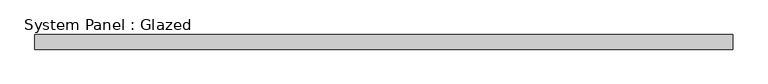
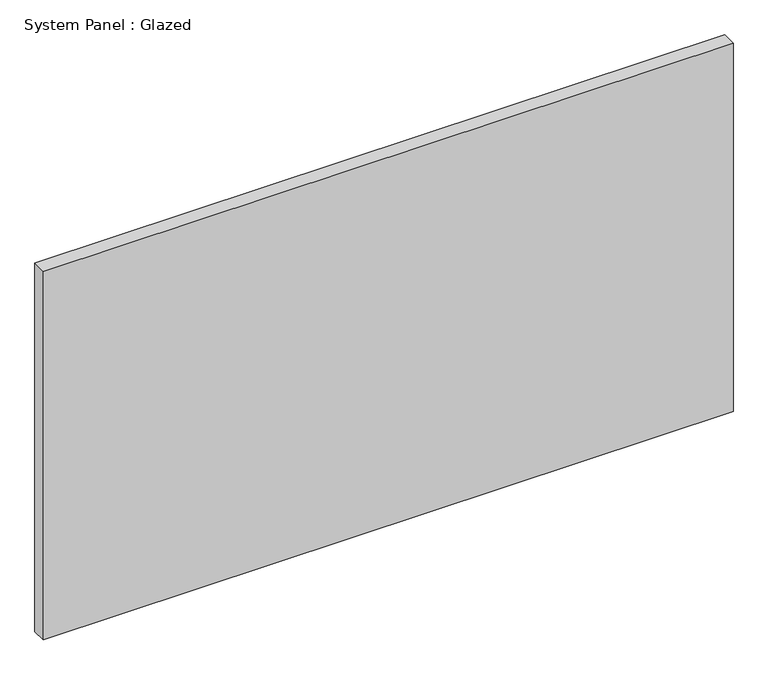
"""IFC4 building model written with IfcOpenShell, lengths in millimetres: plate geometry, System Panel : Glazed."""

from ifc_helpers import new_model, si_unit, origin, origin_with_axes, place, context, project, spatial, polyline, outline, extrude, source, transform, mapped, element, save


def system_panel_glazed_89292151(model_context):
    return source(origin(), model_context, "Body", "SweptSolid", [
        extrude(outline(polyline([(597.3125, -49.5), (-597.3125, -49.5), (-597.3125, -24.5), (597.3125, -24.5), (597.3125, -49.5)])), origin_with_axes(), (0.0, 0.0, 1.0), 675.0),
    ])


if __name__ == "__main__":
    model = new_model("IFC4")
    model_context = context("Model", 3, world=origin())
    ifc_project = project(units=[si_unit("LENGTHUNIT", "METRE", prefix="MILLI")], contexts=[model_context])
    site = spatial("IfcSite", under=ifc_project)
    building = spatial("IfcBuilding", under=site)
    placement = place(None, origin())
    system_panel_glazed_shape = system_panel_glazed_89292151(model_context)
    element("IfcPlate", 1, ObjectType="System Panel : Glazed", at=placement, inside=building, context=model_context, shape_type="MappedRepresentation", body=[
        mapped(system_panel_glazed_shape, transform((0.0, 0.0, 0.0), x_axis=(1.0, 0.0, 0.0), y_axis=(0.0, 1.0, 0.0), z_axis=(0.0, 0.0, 1.0))),
    ])
    save(model, "model.ifc")
